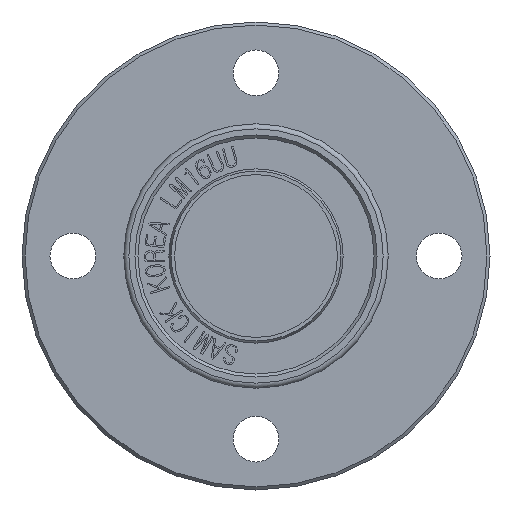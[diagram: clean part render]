
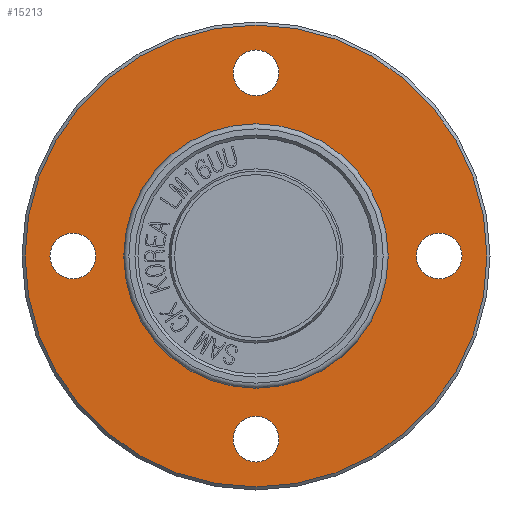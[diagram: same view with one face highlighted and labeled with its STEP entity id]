
A CAD part, front view. The second image highlights one B-rep face of the part: STEP entity #15213.
In plain terms, the highlighted planar face has unit normal (0, -1, 0).
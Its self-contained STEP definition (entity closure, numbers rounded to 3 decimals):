
#4427=FACE_BOUND('',#5344,.T.);
#4428=FACE_BOUND('',#5345,.T.);
#4429=FACE_BOUND('',#5346,.T.);
#4430=FACE_BOUND('',#5347,.T.);
#4431=FACE_BOUND('',#5348,.T.);
#4502=FACE_OUTER_BOUND('',#5343,.T.);
#5343=EDGE_LOOP('',(#10316,#10317));
#5344=EDGE_LOOP('',(#10318));
#5345=EDGE_LOOP('',(#10319));
#5346=EDGE_LOOP('',(#10320));
#5347=EDGE_LOOP('',(#10321));
#5348=EDGE_LOOP('',(#10322,#10323));
#6230=CIRCLE('',#16063,2.25);
#6236=CIRCLE('',#16072,2.25);
#6242=CIRCLE('',#16081,2.25);
#6248=CIRCLE('',#16090,2.25);
#6255=CIRCLE('',#16100,22.7);
#6256=CIRCLE('',#16101,22.7);
#6257=CIRCLE('',#16103,13.);
#6258=CIRCLE('',#16104,13.);
#6304=VERTEX_POINT('',#18154);
#6310=VERTEX_POINT('',#18171);
#6316=VERTEX_POINT('',#18188);
#6322=VERTEX_POINT('',#18205);
#6329=VERTEX_POINT('',#18225);
#6330=VERTEX_POINT('',#18226);
#6331=VERTEX_POINT('',#18231);
#6332=VERTEX_POINT('',#18232);
#7890=EDGE_CURVE('',#6304,#6304,#6230,.T.);
#7898=EDGE_CURVE('',#6310,#6310,#6236,.T.);
#7906=EDGE_CURVE('',#6316,#6316,#6242,.T.);
#7914=EDGE_CURVE('',#6322,#6322,#6248,.T.);
#7923=EDGE_CURVE('',#6329,#6330,#6255,.T.);
#7924=EDGE_CURVE('',#6330,#6329,#6256,.T.);
#7926=EDGE_CURVE('',#6331,#6332,#6257,.T.);
#7927=EDGE_CURVE('',#6332,#6331,#6258,.T.);
#10316=ORIENTED_EDGE('',*,*,#7923,.T.);
#10317=ORIENTED_EDGE('',*,*,#7924,.T.);
#10318=ORIENTED_EDGE('',*,*,#7890,.T.);
#10319=ORIENTED_EDGE('',*,*,#7898,.T.);
#10320=ORIENTED_EDGE('',*,*,#7906,.T.);
#10321=ORIENTED_EDGE('',*,*,#7914,.T.);
#10322=ORIENTED_EDGE('',*,*,#7926,.F.);
#10323=ORIENTED_EDGE('',*,*,#7927,.F.);
#14976=PLANE('',#16102);
#15213=ADVANCED_FACE('',(#4502,#4427,#4428,#4429,#4430,#4431),#14976,.T.);
#16063=AXIS2_PLACEMENT_3D('',#18156,#16398,#16399);
#16072=AXIS2_PLACEMENT_3D('',#18173,#16418,#16419);
#16081=AXIS2_PLACEMENT_3D('',#18190,#16438,#16439);
#16090=AXIS2_PLACEMENT_3D('',#18207,#16458,#16459);
#16100=AXIS2_PLACEMENT_3D('',#18227,#16480,#16481);
#16101=AXIS2_PLACEMENT_3D('',#18228,#16482,#16483);
#16102=AXIS2_PLACEMENT_3D('',#18230,#16485,#16486);
#16103=AXIS2_PLACEMENT_3D('',#18233,#16487,#16488);
#16104=AXIS2_PLACEMENT_3D('',#18234,#16489,#16490);
#16398=DIRECTION('center_axis',(0.,1.,0.));
#16399=DIRECTION('ref_axis',(0.,0.,
1.));
#16418=DIRECTION('center_axis',(0.,1.,0.));
#16419=DIRECTION('ref_axis',(-1.,0.,0.));
#16438=DIRECTION('center_axis',(0.,1.,0.));
#16439=DIRECTION('ref_axis',(0.,0.,
-1.));
#16458=DIRECTION('center_axis',(0.,1.,0.));
#16459=DIRECTION('ref_axis',(1.,0.,0.));
#16480=DIRECTION('center_axis',(0.,-1.,0.));
#16481=DIRECTION('ref_axis',(1.,0.,0.));
#16482=DIRECTION('center_axis',(0.,-1.,0.));
#16483=DIRECTION('ref_axis',(1.,0.,0.));
#16485=DIRECTION('center_axis',(0.,-1.,0.));
#16486=DIRECTION('ref_axis',(0.,0.,-1.));
#16487=DIRECTION('center_axis',(0.,-1.,0.));
#16488=DIRECTION('ref_axis',(1.,0.,0.));
#16489=DIRECTION('center_axis',(0.,-1.,0.));
#16490=DIRECTION('ref_axis',(1.,0.,0.));
#18154=CARTESIAN_POINT('',(0.,12.,15.75));
#18156=CARTESIAN_POINT('Origin',(0.,12.,18.));
#18171=CARTESIAN_POINT('',(-15.75,12.,0.));
#18173=CARTESIAN_POINT('Origin',(-18.,12.,0.));
#18188=CARTESIAN_POINT('',(0.,12.,-15.75));
#18190=CARTESIAN_POINT('Origin',(0.,12.,-18.));
#18205=CARTESIAN_POINT('',(15.75,12.,0.));
#18207=CARTESIAN_POINT('Origin',(18.,12.,0.));
#18225=CARTESIAN_POINT('',(22.7,12.,0.));
#18226=CARTESIAN_POINT('',(-22.7,12.,0.));
#18227=CARTESIAN_POINT('Origin',(0.,12.,0.));
#18228=CARTESIAN_POINT('Origin',(0.,12.,0.));
#18230=CARTESIAN_POINT('Origin',(13.,12.,0.));
#18231=CARTESIAN_POINT('',(13.,12.,0.));
#18232=CARTESIAN_POINT('',(-13.,12.,0.));
#18233=CARTESIAN_POINT('Origin',(0.,12.,0.));
#18234=CARTESIAN_POINT('Origin',(0.,12.,0.));
